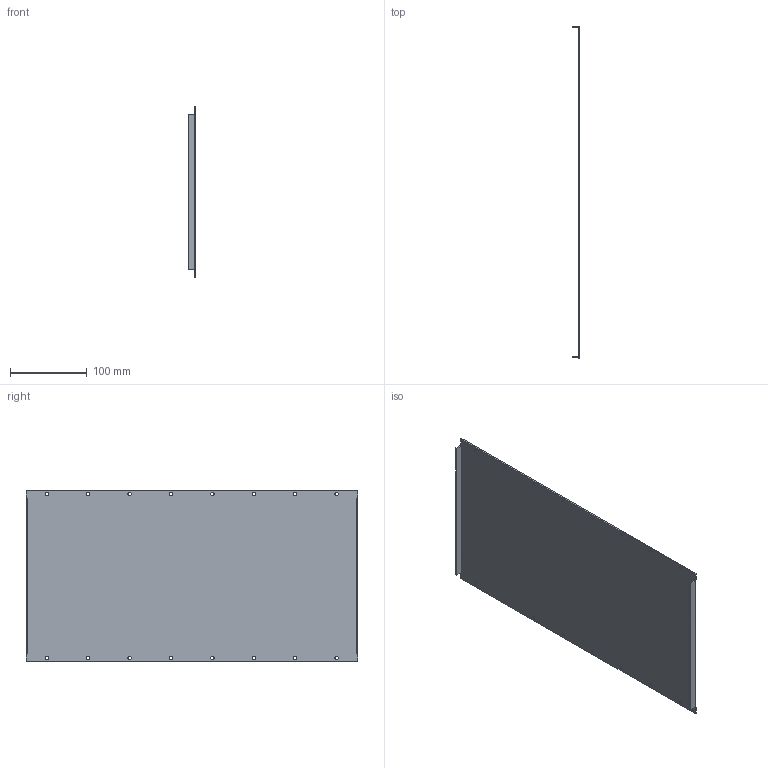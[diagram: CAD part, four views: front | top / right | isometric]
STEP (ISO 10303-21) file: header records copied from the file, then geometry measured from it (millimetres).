
FILE_DESCRIPTION(('CATIA V5 STEP Exchange'),'2;1');
FILE_NAME('C:\Users\Mike\Desktop\blank panels\8MU BLANK PANEL.stp','2018-03-03T21:32:52+00:00',('none'),('none'),'CATIA Version 5 Release 20 GA (IN-10)','CATIA V5 STEP AP214','none');
FILE_SCHEMA(('AUTOMOTIVE_DESIGN { 1 0 10303 214 1 1 1 1 }'));
Length unit declared in the file: millimetre
Products named in the file (1): 8MU BLANK PANEL
Bounding box: 10.16 x 431.55 x 222.25 mm (x, y, z)
Volume: 155936.2 mm3; surface area: 200482.8 mm2
Topology: 1 solids, 1 shells, 58 faces, 168 edges, 112 vertices
Faces by surface type: cylinder 34, plane 20, torus 4
Entity records: 2050 total; most frequent: CARTESIAN_POINT 567, ORIENTED_EDGE 336, DIRECTION 212, EDGE_CURVE 168, VERTEX_POINT 112, EDGE_LOOP 90, VECTOR 88, LINE 88
